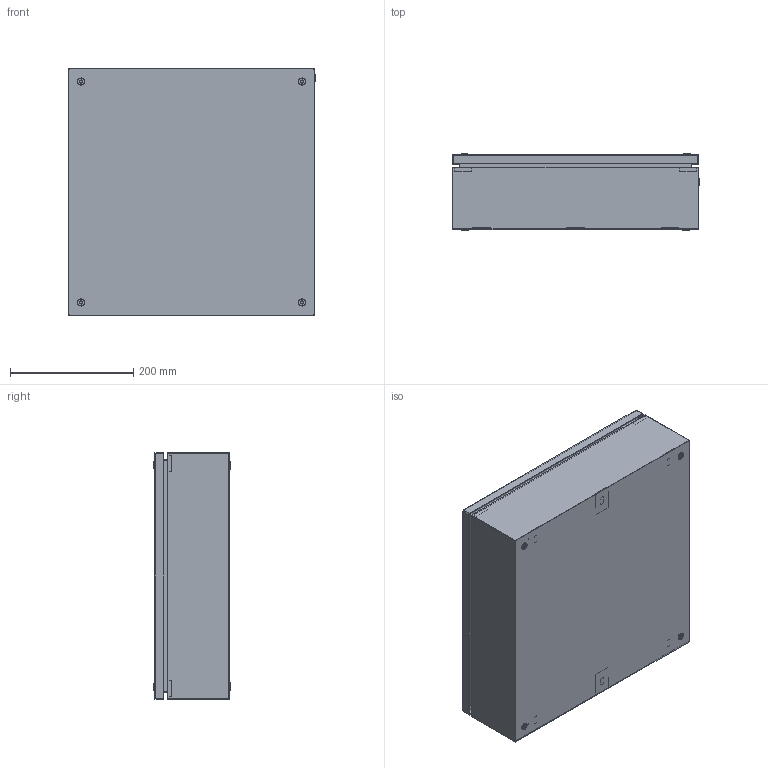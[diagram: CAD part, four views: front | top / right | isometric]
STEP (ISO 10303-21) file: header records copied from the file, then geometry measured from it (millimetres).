
FILE_DESCRIPTION(('Open CASCADE Model'),'2;1');
FILE_NAME('Open CASCADE Shape Model','2025-11-18T11:38:38',('Author'),( 'Open CASCADE'),'Open CASCADE STEP processor 7.8','Open CASCADE 7.8' ,'Unknown');
FILE_SCHEMA(('AUTOMOTIVE_DESIGN { 1 0 10303 214 1 1 1 1 }'));
Length unit declared in the file: millimetre
Products named in the file (18): Compound1; Compound2; Compound3; Compound4; Solid1; Solid2; Solid3; Solid4; Solid5; Solid6; Compound5; Compound6; Solid7; Solid8; Solid9; Solid10; Solid11; Solid12
Assembly tree (33 placements, depth 5):
  Compound1
    Compound2
      Compound3
        Compound4
          Solid1
          Solid2  x2
          Solid3  x2
          Solid4  x2
          Solid5
        Solid6
      Compound5
        Compound6
          Solid7
          Solid5
        Solid8
      Solid9  x4
      Solid10  x4
      Solid11  x4
    Solid12  x4
Bounding box: 401.5 x 123.79 x 400 mm (x, y, z)
Volume: 850121 mm3; surface area: 1242305.8 mm2
Topology: 28 solids, 28 shells, 978 faces, 2637 edges, 1744 vertices
Faces by surface type: plane 693, cylinder 159, cone 48, bspline 40, torus 30, sphere 8
Full cylindrical faces by diameter (mm): 4 x30, 4.134 x4, 5 x9, 5.2 x4, 5.3 x4, 5.5 x4, 6 x2, 6.5 x4, 7.5 x6, 7.8 x4, 8 x4, 8.5 x5, 9 x1, 9.1 x1, 11.5 x4, 12 x1, 13.5 x4, 15.791 x4
Entity records: 16754 total; most frequent: CARTESIAN_POINT 5049, ORIENTED_EDGE 2456, DIRECTION 2198, EDGE_CURVE 1228, VERTEX_POINT 812, LINE 792, VECTOR 792, AXIS2_PLACEMENT_3D 703
